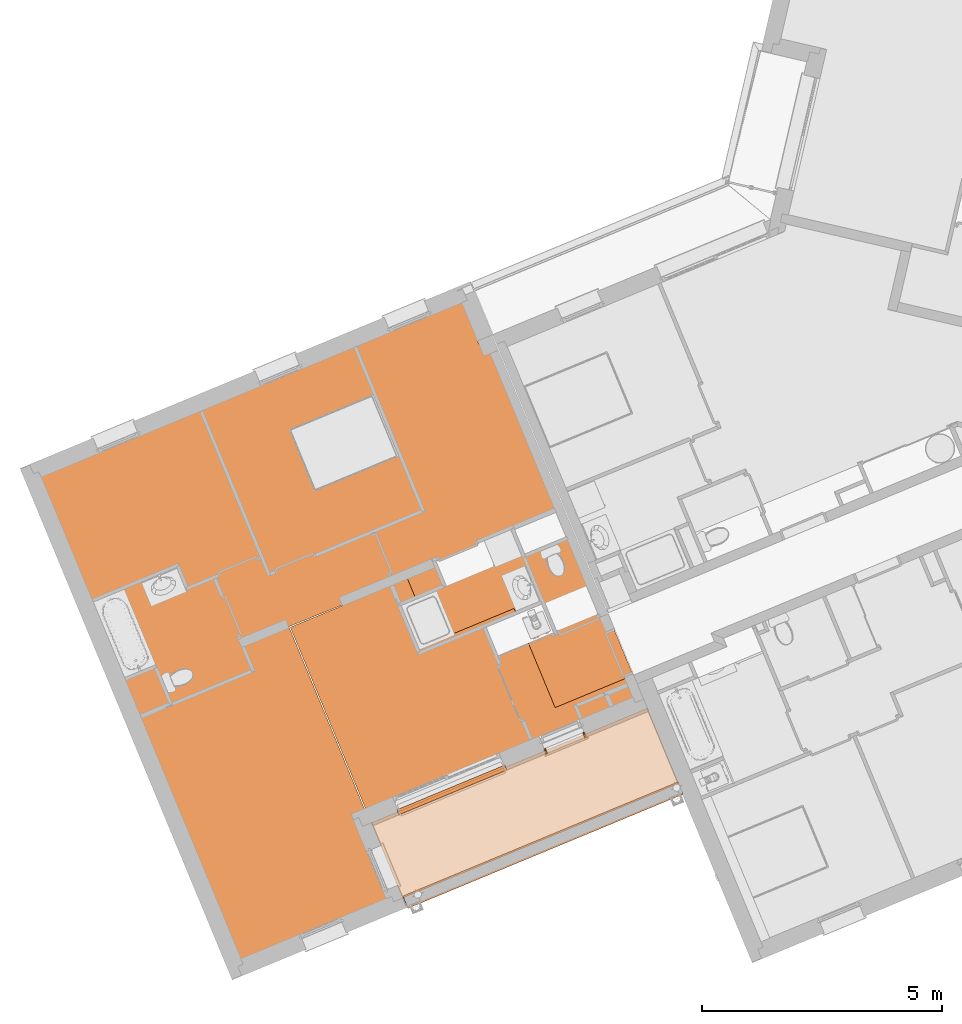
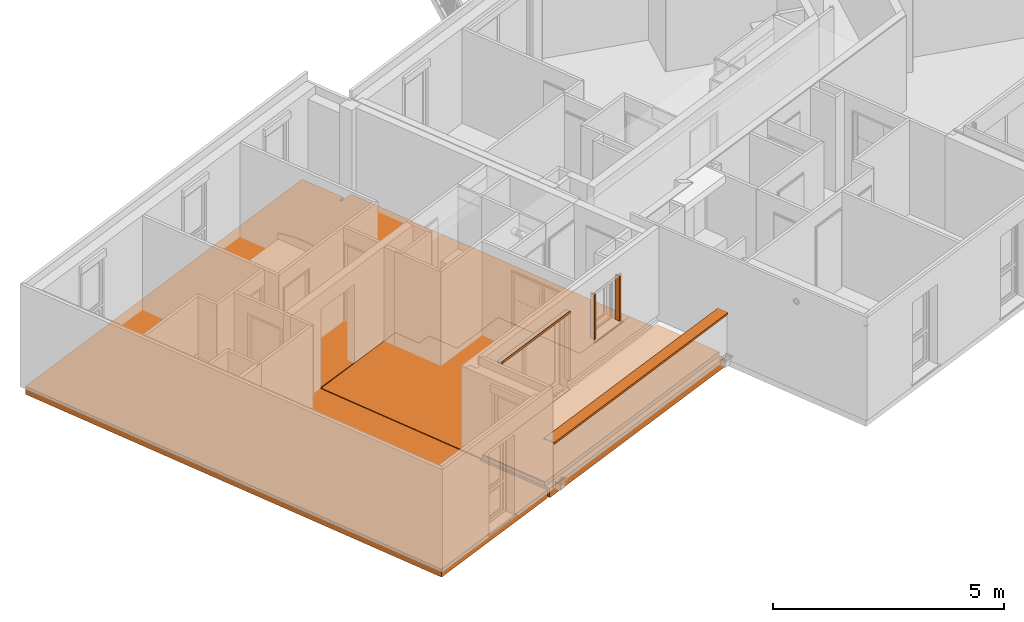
# One storey, part 89 of 91: 7 proxies.
"""IFC2X3 building model written with IfcOpenShell, lengths in metres."""

from ifc_helpers import new_model, entity, si_unit, converted_unit, derived_unit, money_unit, direction, frame, origin_with_axes, place, context, subcontext, project, spatial, faceted_brep, material, material_list, type_object, element, save


model = new_model("IFC2X3")

# Units and contexts
model_context = context("Model", 3, precision=1e-05, world=origin_with_axes(), true_north=direction((0.0, 1.0)))
body_context = subcontext(model_context, "Body", "Model", "MODEL_VIEW")
ifc_project = project(units=[si_unit("LENGTHUNIT", "METRE"), si_unit("AREAUNIT", "SQUARE_METRE"), si_unit("VOLUMEUNIT", "CUBIC_METRE"), converted_unit("PLANEANGLEUNIT", "DEGREE", entity("IfcPlaneAngleMeasure", 0.0174532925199), si_unit("PLANEANGLEUNIT", "RADIAN"), dimensions=[0, 0, 0, 0, 0, 0, 0]), si_unit("SOLIDANGLEUNIT", "STERADIAN"), money_unit("EUR"), converted_unit("TIMEUNIT", "Year", entity("IfcTimeMeasure", 31556926.0), si_unit("TIMEUNIT", "SECOND"), dimensions=[0, 0, 1, 0, 0, 0, 0]), si_unit("MASSUNIT", "GRAM", prefix="KILO"), si_unit("THERMODYNAMICTEMPERATUREUNIT", "DEGREE_CELSIUS"), si_unit("LUMINOUSINTENSITYUNIT", "LUMEN"), si_unit("ENERGYUNIT", "JOULE", prefix="MEGA"), derived_unit("THERMALCONDUCTANCEUNIT", [(si_unit("POWERUNIT", "WATT"), 1), (si_unit("LENGTHUNIT", "METRE"), -1), (si_unit("THERMODYNAMICTEMPERATUREUNIT", "KELVIN"), -1)]), derived_unit("SPECIFICHEATCAPACITYUNIT", [(si_unit("ENERGYUNIT", "JOULE"), 1), (si_unit("MASSUNIT", "GRAM", prefix="KILO"), -1), (si_unit("THERMODYNAMICTEMPERATUREUNIT", "KELVIN"), -1)]), derived_unit("MASSDENSITYUNIT", [(si_unit("MASSUNIT", "GRAM", prefix="KILO"), 1), (si_unit("VOLUMEUNIT", "CUBIC_METRE"), -1)])], contexts=[model_context])

# Site, building, storey
site_placement = place(None, origin_with_axes())
site = spatial("IfcSite", under=ifc_project, at=site_placement, Name="Site", CompositionType="ELEMENT")
building_placement = place(site_placement, origin_with_axes())
building = spatial("IfcBuilding", under=site, at=building_placement, Name="Bâtiment", CompositionType="ELEMENT")
storey_placement = place(building_placement, frame((0.0, 0.0, 5.44), z_axis=(0.0, 0.0, 1.0), x_axis=(1.0, 0.0, 0.0)))
storey = spatial("IfcBuildingStorey", under=building, at=storey_placement, Name="R+2", CompositionType="ELEMENT", Elevation=5.44)

# Proxies
ifc_material_1 = material(Name="Volume - Etude")
building_element_proxy_type_1 = type_object("IfcBuildingElementProxyType", Name="Volume - Etude", PredefinedType="NOTDEFINED")
proxy_1_placement = place(storey_placement, frame((-23.6876553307, -23.3567992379, 1.79657251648), z_axis=(0.0, 0.0, 1.0), x_axis=(0.581018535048, -0.813890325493, 0.0)))
element("IfcBuildingElementProxy", 1, at=proxy_1_placement, inside=storey, type_object=building_element_proxy_type_1, material=ifc_material_1, Name="Forme-009", context=body_context, shape_type="Brep", body=[
    faceted_brep([(0.0774534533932, -0.0178752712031, -0.780796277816), (0.07070717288, -0.047106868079, -0.780796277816), (0.07070717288, -0.047106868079, 0.413427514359), (0.0774534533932, -0.0178752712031, 0.413427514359), (0.185133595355, -0.0427264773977, -0.780796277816), (0.189631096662, -0.023238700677, -0.780796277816), (0.199337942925, -0.0254789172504, -0.780796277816), (0.188094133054, -0.0741982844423, -0.780796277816), (0.188094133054, -0.0741982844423, 0.413427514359), (0.199337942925, -0.0254789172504, 0.413427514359), (0.189631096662, -0.023238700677, 0.413427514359), (0.185133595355, -0.0427264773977, 0.413427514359)], [[[0, 1, 2, 3]], [[1, 0, 4, 5, 6, 7]], [[2, 1, 7, 8]], [[3, 2, 8, 9, 10, 11]], [[0, 3, 11, 4]], [[11, 10, 5, 4]], [[5, 10, 9, 6]], [[8, 7, 6, 9]]]),
])
proxy_2_placement = place(storey_placement, frame((-25.7565106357, -24.3009285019, 2.25000000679), z_axis=(0.0, 0.0, 1.0), x_axis=(-0.165581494, 0.986196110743, 0.0)))
element("IfcBuildingElementProxy", 2, at=proxy_2_placement, inside=storey, type_object=building_element_proxy_type_1, material=ifc_material_1, Name="Forme-010", context=body_context, shape_type="Brep", body=[
    faceted_brep([(-0.00728521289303, -0.504161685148, 0.0200000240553), (-0.00728521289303, -0.504161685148, -0.0399999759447), (0.110101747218, -0.477070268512, -0.0399999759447), (0.110101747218, -0.477070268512, 0.0), (0.00242160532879, -0.501921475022, 0.0), (0.00242163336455, -0.501921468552, 0.0200000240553), (-0.555983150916, 1.87334347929, 0.0200000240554), (-0.555983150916, 1.87334347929, -0.0399999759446), (-0.438596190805, 1.90043489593, -0.0399999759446), (-0.438596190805, 1.90043489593, 0.0), (-0.546276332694, 1.87558368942, 0.0), (-0.546276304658, 1.87558369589, 0.0200000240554)], [[[0, 1, 2, 3, 4, 5]], [[0, 6, 7, 1]], [[1, 7, 8, 2]], [[2, 8, 9, 3]], [[3, 9, 10, 4]], [[4, 10, 11, 5]], [[5, 11, 6, 0]], [[10, 9, 8, 7, 6, 11]]]),
])
proxy_3_placement = place(storey_placement, frame((-24.5189868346, -23.7016005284, 1.79657251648), z_axis=(0.0, 0.0, 1.0), x_axis=(-0.16558149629, 0.986196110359, 0.0)))
element("IfcBuildingElementProxy", 3, at=proxy_3_placement, inside=storey, type_object=building_element_proxy_type_1, material=ifc_material_1, Name="Forme-009", context=body_context, shape_type="Brep", body=[
    faceted_brep([(-0.199337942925, -0.0254789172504, -0.780796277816), (-0.188094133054, -0.0741982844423, -0.780796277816), (-0.188094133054, -0.0741982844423, 0.413427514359), (-0.199337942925, -0.0254789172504, 0.413427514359), (-0.189631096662, -0.023238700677, -0.780796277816), (-0.185133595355, -0.0427264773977, -0.780796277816), (-0.0774534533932, -0.0178752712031, -0.780796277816), (-0.07070717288, -0.047106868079, -0.780796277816), (-0.07070717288, -0.047106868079, 0.413427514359), (-0.0774534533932, -0.0178752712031, 0.413427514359), (-0.185133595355, -0.0427264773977, 0.413427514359), (-0.189631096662, -0.023238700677, 0.413427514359)], [[[0, 1, 2, 3]], [[1, 0, 4, 5, 6, 7]], [[1, 7, 8, 2]], [[3, 2, 8, 9, 10, 11]], [[4, 0, 3, 11]], [[4, 11, 10, 5]], [[10, 9, 6, 5]], [[6, 9, 8, 7]]]),
])
ifc_material_2 = material(Name="Béton")
building_element_proxy_type_2 = type_object("IfcBuildingElementProxyType", Name="Béton 210", PredefinedType="NOTDEFINED")
proxy_4_placement = place(storey_placement, frame((-35.2921712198, -17.9834716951, 0.0), z_axis=(0.0, 0.0, 1.0), x_axis=(1.0, 0.0, 0.0)))
element("IfcBuildingElementProxy", 4, at=proxy_4_placement, inside=storey, type_object=building_element_proxy_type_2, material=ifc_material_2, Name="Dalle_004", context=body_context, shape_type="Brep", body=[
    faceted_brep([(9.68938290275, 2.71962714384, -0.2), (9.68172056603, 2.73810114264, -0.200000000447), (9.68172056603, 2.73810114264, -1.30867494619e-09), (9.68951195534, 2.71931599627, 0.0), (9.68951195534, 2.71931599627, -0.21), (9.68938290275, 2.71962714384, -0.21), (9.44736769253, 2.61924942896, -0.2), (9.43970544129, 2.63772346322, -0.200000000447), (9.43970544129, 2.63772346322, -1.36298172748e-09), (9.42131603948, 2.68206114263, -1.36298172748e-09), (9.5413972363, 2.73186576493, -1.3361756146e-09), (9.10771383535, 3.77749605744, 0.0), (0.0, 0.0, 0.0), (4.35452892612, -10.4989661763, 0.0), (7.84513122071, -9.0512113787, 0.0), (7.13560678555, -7.34051587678, 0.0), (7.17994444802, -7.32212648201, 0.0), (5.4915339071, -3.25129225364, 0.0), (7.9579092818, -2.25186448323, 0.0), (8.20592237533, -2.84983519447, 0.0), (8.53304903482, -2.72498282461, 0.0), (8.8267571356, -3.43312623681, 0.0), (10.1772090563, -2.87301579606, 0.0), (11.0330488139, -4.93648423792, 0.0), (12.6587637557, -4.26220615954, 0.0), (9.75231686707, 2.74536873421, 0.0), (9.75231686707, 2.74536873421, -0.21), (9.42131603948, 2.68206114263, -0.21), (9.44736769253, 2.61924942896, -0.21), (12.6587637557, -4.26220615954, -0.21), (11.0330488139, -4.93648423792, -0.21), (10.1772090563, -2.87301579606, -0.21), (8.8267571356, -3.43312623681, -0.21), (8.53304903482, -2.72498282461, -0.21), (8.20592237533, -2.84983519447, -0.21), (7.9579092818, -2.25186448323, -0.21), (5.4915339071, -3.25129225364, -0.21), (7.17994444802, -7.32212648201, -0.21), (7.13560678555, -7.34051587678, -0.21), (7.84513122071, -9.0512113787, -0.21), (4.35452892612, -10.4989661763, -0.21), (0.0, 0.0, -0.21), (9.10771383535, 3.77749605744, -0.21), (9.5413972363, 2.73186576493, -0.21)], [[[0, 1, 2, 3, 4, 5]], [[6, 7, 1, 0]], [[7, 8, 2, 1]], [[8, 9, 10, 11, 12, 13, 14, 15, 16, 17, 18, 19, 20, 21, 22, 23, 24, 25, 3, 2]], [[3, 25, 26, 4]], [[27, 28, 5, 4, 26, 29, 30, 31, 32, 33, 34, 35, 36, 37, 38, 39, 40, 41, 42, 43]], [[6, 0, 5, 28]], [[27, 9, 8, 7, 6, 28]], [[43, 10, 9, 27]], [[11, 10, 43, 42]], [[11, 42, 41, 12]], [[13, 12, 41, 40]], [[14, 13, 40, 39]], [[15, 14, 39, 38]], [[16, 15, 38, 37]], [[17, 16, 37, 36]], [[18, 17, 36, 35]], [[19, 18, 35, 34]], [[20, 19, 34, 33]], [[21, 20, 33, 32]], [[22, 21, 32, 31]], [[23, 22, 31, 30]], [[24, 23, 30, 29]], [[25, 24, 29, 26]]]),
])
ifc_material_3 = material(Name="Métal - Aluminium")
building_element_proxy_type_3 = type_object("IfcBuildingElementProxyType", Name="Couvertine Métal 280 x 50", PredefinedType="USERDEFINED")
proxy_5_placement = place(storey_placement, frame((-27.3771897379, -26.9710693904, 1.24363063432), z_axis=(0.0, 0.0, 1.0), x_axis=(0.923701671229, 0.383112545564, 0.0)))
element("IfcBuildingElementProxy", 5, at=proxy_5_placement, inside=storey, type_object=building_element_proxy_type_3, material=ifc_material_3, Name="Couvertine métal laqué", ObjectType="CONSTRUCTION ELEMENT", context=body_context, shape_type="Brep", body=[
    faceted_brep([(0.0, -0.140001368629, 0.002), (6.20219639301, -0.140001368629, 0.002), (6.20219639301, 0.140001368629, 0.002), (0.0, 0.140001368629, 0.002), (0.0, -0.140001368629, -0.048), (6.20219639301, -0.140001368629, -0.048), (6.20219639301, -0.131415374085, -0.0416371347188), (6.20219639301, -0.132421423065, -0.0399754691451), (6.20219639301, -0.138193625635, -0.0442531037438), (6.20219639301, -0.138193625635, 0.0), (6.20219639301, 0.138193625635, 0.0), (6.20219639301, 0.138193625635, -0.0442531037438), (6.20219639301, 0.132421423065, -0.0399754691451), (6.20219639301, 0.131415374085, -0.0416371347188), (6.20219639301, 0.140001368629, -0.048), (0.0, 0.140001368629, -0.048), (0.0, 0.131415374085, -0.0416371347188), (0.0, 0.132421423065, -0.0399754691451), (0.0, 0.138193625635, -0.0442531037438), (0.0, 0.138193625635, 0.0), (0.0, -0.138193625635, 0.0), (0.0, -0.138193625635, -0.0442531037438), (0.0, -0.132421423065, -0.0399754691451), (0.0, -0.131415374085, -0.0416371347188)], [[[0, 1, 2, 3]], [[4, 5, 1, 0]], [[2, 1, 5, 6, 7, 8, 9, 10, 11, 12, 13, 14]], [[3, 2, 14, 15]], [[4, 0, 3, 15, 16, 17, 18, 19, 20, 21, 22, 23]], [[23, 6, 5, 4]], [[22, 7, 6, 23]], [[21, 8, 7, 22]], [[20, 9, 8, 21]], [[19, 10, 9, 20]], [[18, 11, 10, 19]], [[17, 12, 11, 18]], [[16, 13, 12, 17]], [[15, 14, 13, 16]]]),
])
ifc_material_4 = material(Name="Etanchéité - Bitume")
ifc_material_5 = material(Name="Isolation - Polyuréthane (extérieur)")
ifc_material_list = material_list([ifc_material_4, ifc_material_5])
building_element_proxy_type_4 = type_object("IfcBuildingElementProxyType", Name="6 - Isolation sur terrasse sous dalle béton 110", PredefinedType="NOTDEFINED")
proxy_6_placement = place(storey_placement, frame((-21.6865220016, -24.5025595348, 0.11), z_axis=(0.0, 0.0, 1.0), x_axis=(1.0, 0.0, 0.0)))
element("IfcBuildingElementProxy", 6, at=proxy_6_placement, inside=storey, type_object=building_element_proxy_type_4, material=ifc_material_list, Name="Dalle_003", context=body_context, shape_type="Brep", body=[
    faceted_brep([(-0.0138555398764, -0.00574669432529, -0.01), (-0.665127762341, 1.56450008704, -0.01), (-0.665127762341, 1.56450008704, 0.0), (-0.640244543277, 1.50450552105, -2.28376872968e-09), (-0.0138555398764, -0.00574669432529, -2.93170820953e-10), (-5.73442162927, -2.37839654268, -0.01), (-6.38569385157, -0.808149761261, -0.01), (-6.38569385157, -0.808149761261, 0.0), (-5.73442162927, -2.37839654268, 0.0)], [[[0, 1, 2, 3, 4]], [[1, 0, 5, 6]], [[2, 1, 6, 7]], [[3, 2, 7, 8, 4]], [[0, 4, 8, 5]], [[5, 8, 7, 6]]]),
    faceted_brep([(0.0, 0.0, -0.11), (-0.651272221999, 1.57024678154, -0.11), (-0.651272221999, 1.57024678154, -0.01), (0.0, 0.0, -0.01), (-5.74827717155, -2.38414323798, -0.11), (-6.39954939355, -0.813896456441, -0.11), (-6.39954939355, -0.813896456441, -0.01), (-5.74827717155, -2.38414323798, -0.01)], [[[0, 1, 2, 3]], [[0, 4, 5, 1]], [[1, 5, 6, 2]], [[3, 2, 6, 7]], [[4, 0, 3, 7]], [[5, 4, 7, 6]]]),
])
building_element_proxy_type_5 = type_object("IfcBuildingElementProxyType", Name="Béton 250", PredefinedType="NOTDEFINED")
proxy_7_placement = place(storey_placement, frame((-27.334261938, -20.2353361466, 0.0), z_axis=(0.0, 0.0, 1.0), x_axis=(1.0, 0.0, 0.0)))
element("IfcBuildingElementProxy", 7, at=proxy_7_placement, inside=storey, type_object=building_element_proxy_type_5, material=ifc_material_2, Name="Dalle_004", context=body_context, shape_type="Brep", body=[
    faceted_brep([(-0.0501520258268, -6.77284757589, -0.210000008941), (-0.0344491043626, -6.76633466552, -0.210000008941), (-0.0344491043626, -6.76633466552, -0.25), (5.69812512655, -4.38870434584, -0.25), (5.69812512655, -4.38870434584, 0.0), (-0.0501520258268, -6.77284757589, 0.0), (-0.0848342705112, -6.64485375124, -0.210000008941), (-0.100537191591, -6.65136666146, -0.210000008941), (-0.0848342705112, -6.64485375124, -0.25), (-0.100537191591, -6.65136666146, -0.25), (-2.43991987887, -1.01100915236, -0.25), (0.0, 0.0, -0.25), (0.248013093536, -0.597970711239, -0.25), (0.575139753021, -0.473118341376, -0.25), (0.868847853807, -1.18126175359, -0.25), (2.21929977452, -0.621151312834, -0.25), (3.07513953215, -2.68461975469, -0.25), (4.70085446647, -2.01034174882, -0.25), (4.91982611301, -2.5121902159, -0.25), (4.91982611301, -2.5121902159, 0.0), (0.575139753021, -0.473118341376, 0.0), (0.248013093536, -0.597970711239, 0.0), (0.0, 0.0, 0.0), (-2.43991987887, -1.01100915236, 0.0), (4.70085446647, -2.01034174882, 0.0), (3.07513953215, -2.68461975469, 0.0), (2.21929977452, -0.621151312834, 0.0), (0.868847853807, -1.18126175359, 0.0)], [[[0, 1, 2, 3, 4, 5]], [[6, 1, 0, 7]], [[8, 2, 1, 6]], [[2, 8, 9, 10, 11, 12, 13, 14, 15, 16, 17, 18, 3]], [[19, 4, 3, 18]], [[20, 21, 22, 23, 5, 4, 19, 24, 25, 26, 27]], [[9, 7, 0, 5, 23, 10]], [[7, 9, 8, 6]], [[23, 22, 11, 10]], [[22, 21, 12, 11]], [[21, 20, 13, 12]], [[20, 27, 14, 13]], [[27, 26, 15, 14]], [[26, 25, 16, 15]], [[25, 24, 17, 16]], [[24, 19, 18, 17]]]),
])

save(model, "model.ifc")
